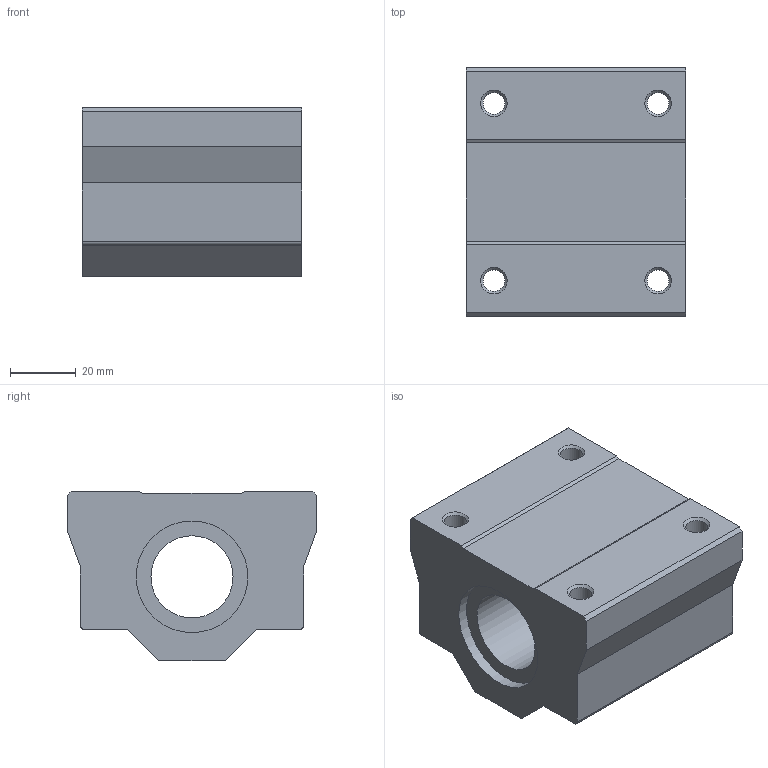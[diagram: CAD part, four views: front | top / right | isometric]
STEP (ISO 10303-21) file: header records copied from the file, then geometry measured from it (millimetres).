
FILE_DESCRIPTION( ( 'Unknown' ), '1' );
FILE_NAME( 'D:/累诀/己绕皋墨飘肺葱胶/11-04-06_档搁累己/01_府聪绢何教/SC/SC 25.stp', 'Unknown', ( 'Unknown' ), ( 'Unknown' ), 'PSStep 11.0', 'Unknown', ' ' );
FILE_SCHEMA( ( 'AUTOMOTIVE_DESIGN { 1 0 10303 214 1 1 1 1 }' ) );
Length unit declared in the file: millimetre
Products named in the file (1): 1
Bounding box: 67 x 76 x 51.5 mm (x, y, z)
Volume: 176742.3 mm3; surface area: 29941.3 mm2
Topology: 1 solids, 1 shells, 39 faces, 111 edges, 76 vertices
Faces by surface type: plane 22, cylinder 13, cone 4
Full cylindrical faces by diameter (mm): 6.647 x8, 25 x1, 34 x2
Entity records: 1426 total; most frequent: DIRECTION 188, CARTESIAN_POINT 184, ORIENTED_EDGE 164, EDGE_CURVE 82, AXIS2_PLACEMENT_3D 66, EDGE_LOOP 66, VERTEX_POINT 62, LINE 56
